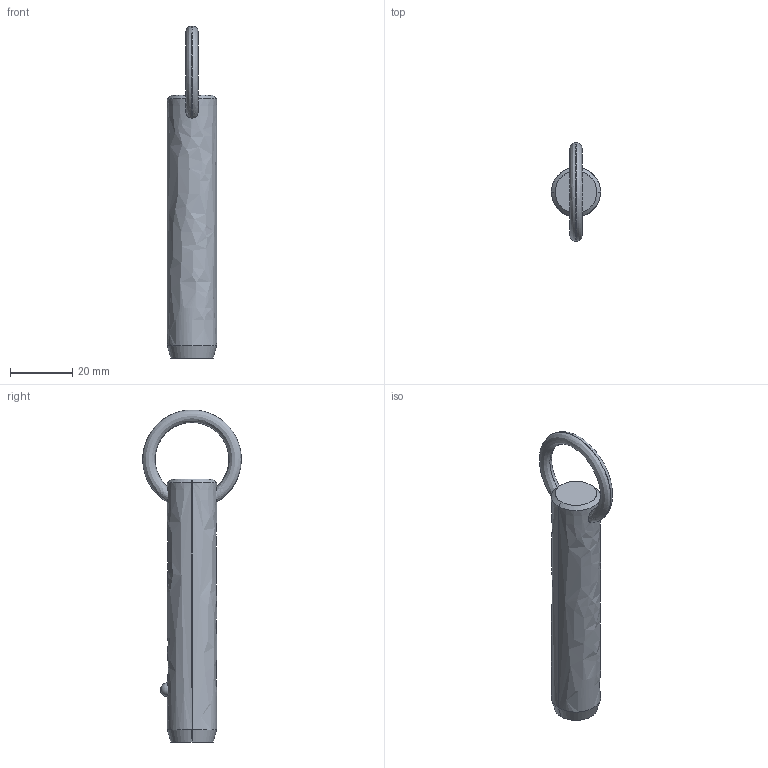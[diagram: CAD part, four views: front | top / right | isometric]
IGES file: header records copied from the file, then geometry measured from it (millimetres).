
Start section: SolidWorks IGES file using analytic representation for surfaces
Global section: file name: C:\Users\liam_\OneDrive\Documents\WORK\Work for WixRoyd\Job Files\J-00019 - Matt Davis CAD Checking\04. CAD Drawings\automotion20190605\P1250.2_v2\P1250.2_v2_20190729_IGES\P1250.062-220.igs; native system: SolidWorks 2017; preprocessor: SolidWorks 2017; author: liam_; date: 190729.233231; units: millimetre
Bounding box: 15.8 x 31.68 x 106.59 mm (x, y, z)
Surface area: 5363.2 mm2 (no closed solid volume)
Topology: 0 solids, 0 shells, 12 faces, 292 edges, 290 vertices
Faces by surface type: revolution 8, bspline 4
